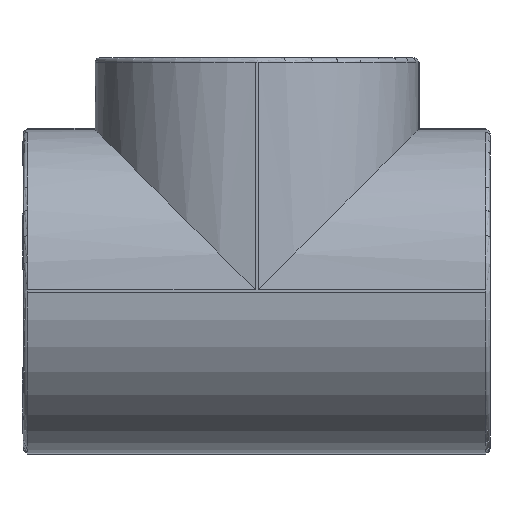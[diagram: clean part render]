
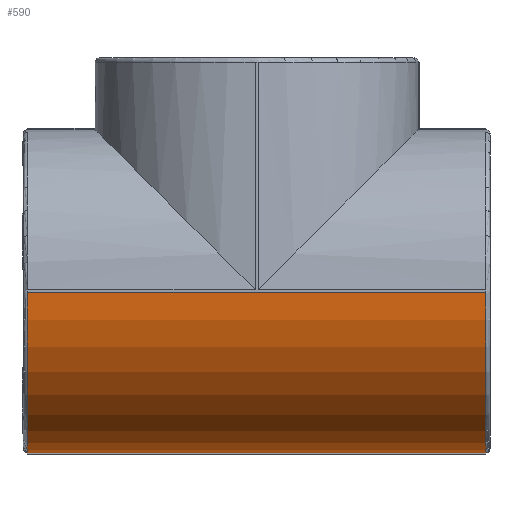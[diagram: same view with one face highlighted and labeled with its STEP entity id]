
A CAD part, left-side view. The second image highlights one B-rep face of the part: STEP entity #590.
In plain terms, the highlighted cylindrical face has radius 59.5 mm (diameter 119 mm), a partial arc.
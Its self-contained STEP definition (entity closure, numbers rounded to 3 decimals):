
#590=ADVANCED_FACE('',(#4617),#4619,.T.);
#4617=FACE_BOUND('',#4618,.T.);
#4618=EDGE_LOOP('',(#12002,#12003,#12004,#12005));
#4619=CYLINDRICAL_SURFACE('',#4620,59.5);
#4620=AXIS2_PLACEMENT_3D('',#4621,#4622,#4623);
#4621=CARTESIAN_POINT('',(0.,-86.,0.));
#4622=DIRECTION('',(0.,1.,0.));
#4623=DIRECTION('',(-1.,0.,0.));
#12002=ORIENTED_EDGE('',*,*,#17254,.F.);
#12003=ORIENTED_EDGE('',*,*,#17255,.T.);
#12004=ORIENTED_EDGE('',*,*,#17256,.F.);
#12005=ORIENTED_EDGE('',*,*,#17238,.F.);
#17238=EDGE_CURVE('',#21181,#21183,#21184,.T.);
#17254=EDGE_CURVE('',#21211,#21181,#21212,.T.);
#17255=EDGE_CURVE('',#21211,#21213,#21214,.T.);
#17256=EDGE_CURVE('',#21183,#21213,#21215,.F.);
#21181=VERTEX_POINT('',#29090);
#21183=VERTEX_POINT('',#29095);
#21184=CIRCLE('',#29096,59.5);
#21211=VERTEX_POINT('',#29165);
#21212=LINE('',#29166,#29167);
#21213=VERTEX_POINT('',#29169);
#21214=CIRCLE('',#29170,59.5);
#21215=LINE('',#29174,#29175);
#29090=CARTESIAN_POINT('',(-0.5,84.5,-59.498));
#29095=CARTESIAN_POINT('',(-59.498,84.5,-0.5));
#29096=AXIS2_PLACEMENT_3D('',#29097,#29098,#29099);
#29097=CARTESIAN_POINT('',(0.,84.5,0.));
#29098=DIRECTION('',(0.,1.,0.));
#29099=DIRECTION('',(-0.008,0.,-1.));
#29165=CARTESIAN_POINT('',(-0.5,-84.5,-59.498));
#29166=CARTESIAN_POINT('',(-0.5,-84.5,-59.498));
#29167=VECTOR('',#29168,1.);
#29168=DIRECTION('',(0.,1.,0.));
#29169=CARTESIAN_POINT('',(-59.498,-84.5,-0.5));
#29170=AXIS2_PLACEMENT_3D('',#29171,#29172,#29173);
#29171=CARTESIAN_POINT('',(0.,-84.5,0.));
#29172=DIRECTION('',(0.,1.,0.));
#29173=DIRECTION('',(-0.008,0.,-1.));
#29174=CARTESIAN_POINT('',(-59.498,-84.5,-0.5));
#29175=VECTOR('',#29176,1.);
#29176=DIRECTION('',(0.,1.,0.));
